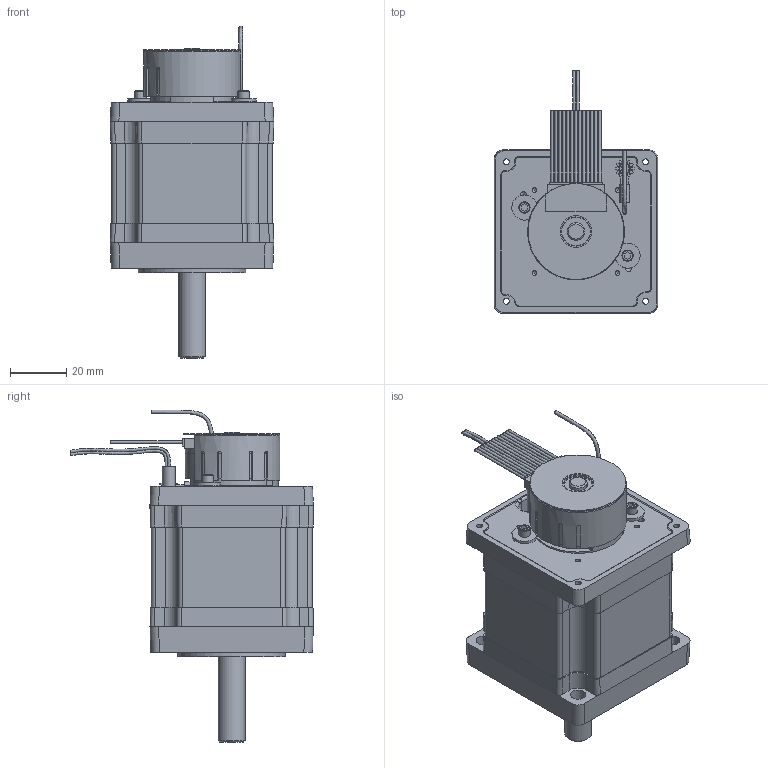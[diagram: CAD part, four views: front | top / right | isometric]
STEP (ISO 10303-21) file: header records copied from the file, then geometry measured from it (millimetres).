
FILE_DESCRIPTION((''),'2;1');
FILE_NAME('C:\CAD_work\Dummy_Modeling_Project_02-12-05\3D MODELS\BE231_FO.stp','2005-12-20T15:27:10',('jevans'),(''),'Autodesk Inventor 10','Autodesk Inventor 10','');
FILE_SCHEMA(('AUTOMOTIVE_DESIGN { 1 0 10303 214 1 1 1 1 }'));
Length unit declared in the file: inch
Products named in the file (1): BE23_FO
Bounding box: 57.95 x 86.08 x 117.69 mm (x, y, z)
Volume: 187256.9 mm3; surface area: 38026.1 mm2
Topology: 7 solids, 7 shells, 496 faces, 1225 edges, 790 vertices
Faces by surface type: plane 281, cylinder 150, bspline 47, cone 12, torus 6
Full cylindrical faces by diameter (mm): 1.016 x13, 1.27 x2, 2.921 x1, 3.02 x1, 3.175 x2, 3.429 x1, 4.013 x3, 4.567 x1, 6.35 x2, 8.89 x2, 9.52 x1, 9.525 x1, 10.16 x1, 10.312 x1, 10.668 x1, 11.176 x1, 21.59 x1, 24.13 x1, 25.403 x1, 26 x1, 27.076 x1, 31.75 x3, 33.02 x2, 34.036 x1, 38.1 x1, 41.732 x1, 47.015 x1
Entity records: 17751 total; most frequent: CARTESIAN_POINT 6367, DIRECTION 2370, ORIENTED_EDGE 2214, EDGE_CURVE 1107, AXIS2_PLACEMENT_3D 855, VERTEX_POINT 760, VECTOR 660, LINE 660
